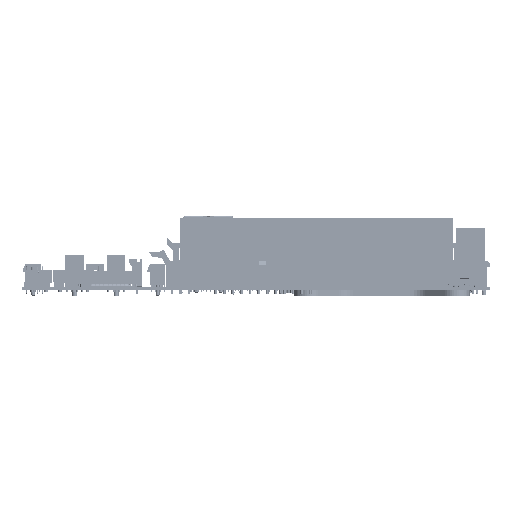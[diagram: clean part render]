
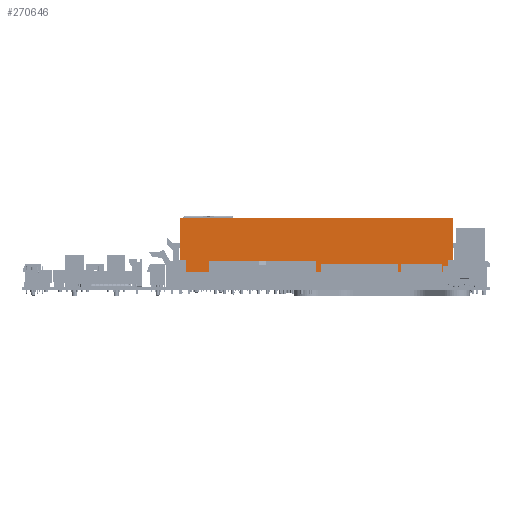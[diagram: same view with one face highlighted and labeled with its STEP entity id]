
A CAD part, front view. The second image highlights one B-rep face of the part: STEP entity #270646.
In plain terms, the highlighted planar face has unit normal (0, -1, 0) as drawn and (0, 0, 1) by its records, which use the part's own axes.
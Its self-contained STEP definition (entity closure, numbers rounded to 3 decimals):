
#270551=DIRECTION('',(1.,0.,0.));
#270552=VECTOR('',#270551,5.25);
#270553=CARTESIAN_POINT('',(-2.625,-0.437,0.16));
#270554=LINE('',#270553,#270552);
#270559=DIRECTION('',(0.,1.,0.));
#270560=VECTOR('',#270559,1.037);
#270561=CARTESIAN_POINT('',(-2.625,-0.437,0.16));
#270562=LINE('',#270561,#270560);
#270563=DIRECTION('',(1.,0.,0.));
#270564=VECTOR('',#270563,5.25);
#270565=CARTESIAN_POINT('',(-2.625,0.6,0.16));
#270566=LINE('',#270565,#270564);
#270567=DIRECTION('',(0.,-1.,0.));
#270568=VECTOR('',#270567,1.037);
#270569=CARTESIAN_POINT('',(2.625,0.6,0.16));
#270570=LINE('',#270569,#270568);
#270571=CARTESIAN_POINT('',(-2.625,0.6,0.16));
#270572=CARTESIAN_POINT('',(-2.625,-0.437,0.16));
#270573=VERTEX_POINT('',#270571);
#270574=VERTEX_POINT('',#270572);
#270579=CARTESIAN_POINT('',(2.625,0.6,0.16));
#270580=CARTESIAN_POINT('',(2.625,-0.437,0.16));
#270581=VERTEX_POINT('',#270579);
#270582=VERTEX_POINT('',#270580);
#270633=CARTESIAN_POINT('',(-2.625,0.6,0.16));
#270634=DIRECTION('',(0.,0.,1.));
#270635=DIRECTION('',(0.,-1.,0.));
#270636=AXIS2_PLACEMENT_3D('',#270633,#270634,#270635);
#270637=PLANE('',#270636);
#270639=ORIENTED_EDGE('',*,*,#270638,.T.);
#270640=ORIENTED_EDGE('',*,*,#270598,.T.);
#270642=ORIENTED_EDGE('',*,*,#270641,.T.);
#270643=ORIENTED_EDGE('',*,*,#270625,.F.);
#270644=EDGE_LOOP('',(#270639,#270640,#270642,#270643));
#270645=FACE_OUTER_BOUND('',#270644,.F.);
#270646=ADVANCED_FACE('',(#270645),#270637,.T.);
#270598=EDGE_CURVE('',#270573,#270581,#270566,.T.);
#270625=EDGE_CURVE('',#270574,#270582,#270554,.T.);
#270638=EDGE_CURVE('',#270574,#270573,#270562,.T.);
#270641=EDGE_CURVE('',#270581,#270582,#270570,.T.);
